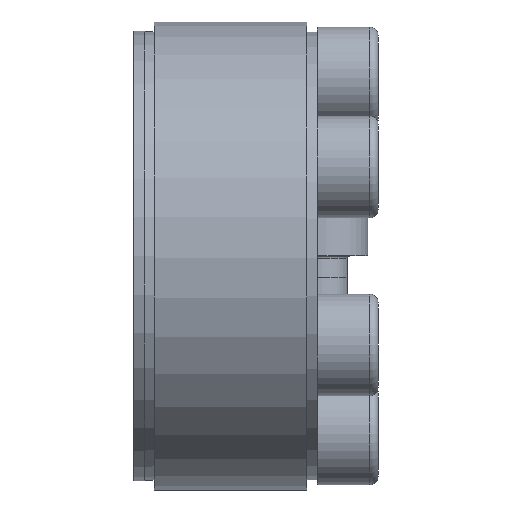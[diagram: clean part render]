
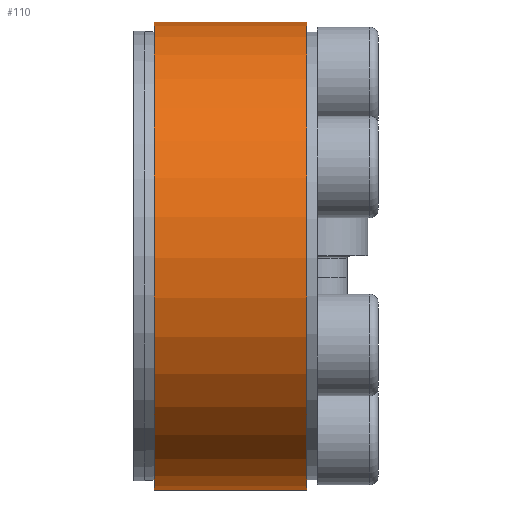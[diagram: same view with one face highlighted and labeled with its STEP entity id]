
A CAD part, left-side view. The second image highlights one B-rep face of the part: STEP entity #110.
In plain terms, the highlighted cylindrical face has radius 23 mm (diameter 46 mm), a partial arc.
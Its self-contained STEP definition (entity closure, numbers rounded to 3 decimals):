
#110 = ADVANCED_FACE( '', ( #232 ), #233, .T. );
#232 = FACE_OUTER_BOUND( '', #358, .T. );
#233 = CYLINDRICAL_SURFACE( '', #359, 23. );
#358 = EDGE_LOOP( '', ( #606, #607, #608, #609 ) );
#359 = AXIS2_PLACEMENT_3D( '', #610, #611, #612 );
#606 = ORIENTED_EDGE( '', *, *, #726, .F. );
#607 = ORIENTED_EDGE( '', *, *, #769, .T. );
#608 = ORIENTED_EDGE( '', *, *, #754, .T. );
#609 = ORIENTED_EDGE( '', *, *, #764, .F. );
#610 = CARTESIAN_POINT( '', ( 0., -60., 0. ) );
#611 = DIRECTION( '', ( 0., 1., 0. ) );
#612 = DIRECTION( '', ( 0., 0., -1. ) );
#726 = EDGE_CURVE( '', #887, #888, #889, .T. );
#754 = EDGE_CURVE( '', #919, #931, #933, .T. );
#764 = EDGE_CURVE( '', #888, #931, #949, .T. );
#769 = EDGE_CURVE( '', #887, #919, #955, .T. );
#887 = VERTEX_POINT( '', #1170 );
#888 = VERTEX_POINT( '', #1171 );
#889 = LINE( '', #1172, #1173 );
#919 = VERTEX_POINT( '', #1217 );
#931 = VERTEX_POINT( '', #1236 );
#933 = LINE( '', #1239, #1240 );
#949 = CIRCLE( '', #1256, 23. );
#955 = CIRCLE( '', #1262, 23. );
#1170 = CARTESIAN_POINT( '', ( 11.064, 16., 20.164 ) );
#1171 = CARTESIAN_POINT( '', ( 11.064, 1., 20.164 ) );
#1172 = CARTESIAN_POINT( '', ( 11.064, -60., 20.164 ) );
#1173 = VECTOR( '', #1351, 1000. );
#1217 = CARTESIAN_POINT( '', ( 11.93, 16., 19.664 ) );
#1236 = CARTESIAN_POINT( '', ( 11.93, 1., 19.664 ) );
#1239 = CARTESIAN_POINT( '', ( 11.93, -60., 19.664 ) );
#1240 = VECTOR( '', #1383, 1000. );
#1256 = AXIS2_PLACEMENT_3D( '', #1402, #1403, #1404 );
#1262 = AXIS2_PLACEMENT_3D( '', #1411, #1412, #1413 );
#1351 = DIRECTION( '', ( 0., -1., 0. ) );
#1383 = DIRECTION( '', ( 0., -1., 0. ) );
#1402 = CARTESIAN_POINT( '', ( 0., 1., 0. ) );
#1403 = DIRECTION( '', ( 0., -1., 0. ) );
#1404 = DIRECTION( '', ( 0., 0., -1. ) );
#1411 = CARTESIAN_POINT( '', ( 0., 16., 0. ) );
#1412 = DIRECTION( '', ( 0., -1., 0. ) );
#1413 = DIRECTION( '', ( 0., 0., -1. ) );
